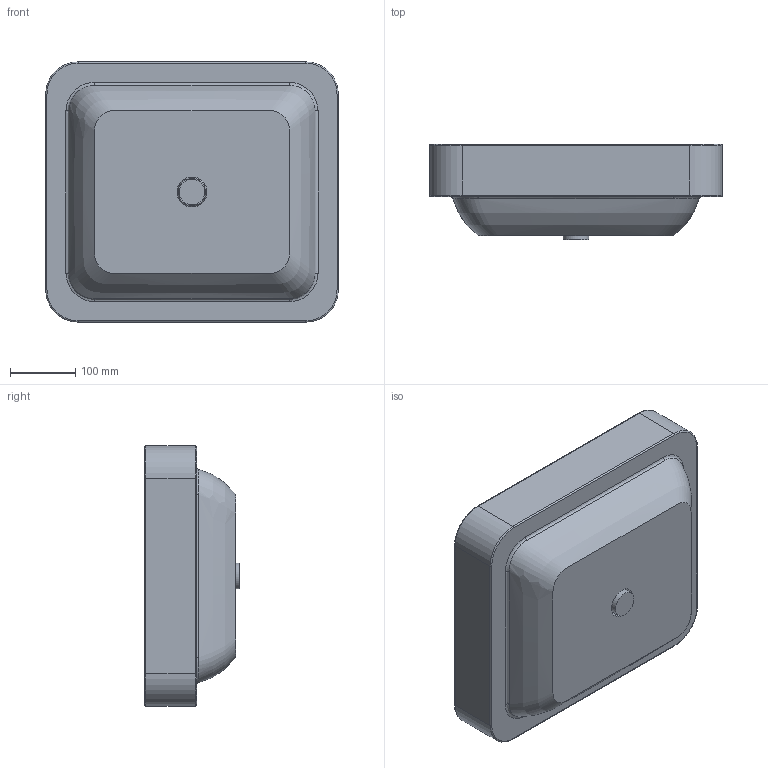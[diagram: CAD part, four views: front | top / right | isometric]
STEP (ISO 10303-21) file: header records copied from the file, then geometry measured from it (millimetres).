
FILE_DESCRIPTION (( 'STEP AP203' ), '1' );
FILE_NAME ('ELLG045400S0_PILETTA.STEP', '2025-05-08T10:32:50', ( '' ), ( '' ), 'SwSTEP 2.0', 'SolidWorks 2024', '' );
FILE_SCHEMA (( 'CONFIG_CONTROL_DESIGN' ));
Length unit declared in the file: millimetre
Products named in the file (3): ELLG045400S0; PILETTA; ELLG045400S0_PILETTA
Assembly tree (2 placements, depth 2):
  ELLG045400S0_PILETTA
    ELLG045400S0
    PILETTA
Bounding box: 450 x 146 x 400 mm (x, y, z)
Volume: 7613385.9 mm3; surface area: 602745.2 mm2
Topology: 2 solids, 2 shells, 63 faces, 158 edges, 103 vertices
Faces by surface type: bspline 19, cylinder 17, torus 13, plane 11, cone 2, sphere 1
Full cylindrical faces by diameter (mm): 32 x1, 40 x1, 46 x1, 62 x2
Entity records: 5934 total; most frequent: CARTESIAN_POINT 4300, ORIENTED_EDGE 276, DIRECTION 264, EDGE_CURVE 138, AXIS2_PLACEMENT_3D 118, VERTEX_POINT 98, EDGE_LOOP 84, FACE_OUTER_BOUND 76
